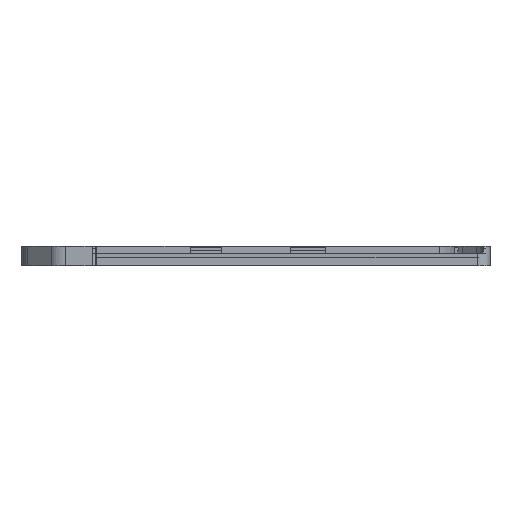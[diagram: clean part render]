
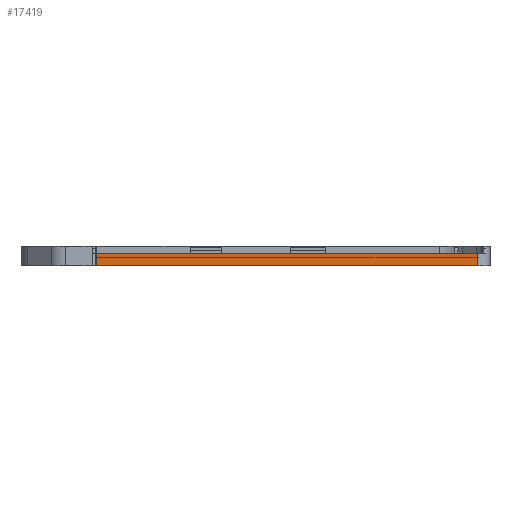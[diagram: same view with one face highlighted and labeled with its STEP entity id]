
A CAD part, left-side view. The second image highlights one B-rep face of the part: STEP entity #17419.
In plain terms, the highlighted planar face has unit normal (-1, 0, 0).
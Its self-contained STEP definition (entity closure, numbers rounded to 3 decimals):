
#3939=DIRECTION('',(0.,-1.,0.));
#3940=VECTOR('',#3939,94.7);
#3941=CARTESIAN_POINT('',(-131.2,40.,-41.5));
#3942=LINE('',#3941,#3940);
#6830=DIRECTION('',(0.,1.,0.));
#6831=VECTOR('',#6830,94.5);
#6832=CARTESIAN_POINT('',(-131.2,-54.5,-38.583));
#6833=LINE('',#6832,#6831);
#6838=DIRECTION('',(0.,0.,1.));
#6839=VECTOR('',#6838,2.926);
#6840=CARTESIAN_POINT('',(-131.2,-54.7,-41.5));
#6841=LINE('',#6840,#6839);
#6842=DIRECTION('',(0.,0.,1.));
#6843=VECTOR('',#6842,2.917);
#6844=CARTESIAN_POINT('',(-131.2,40.,-41.5));
#6845=LINE('',#6844,#6843);
#6846=CARTESIAN_POINT('',(-131.2,-54.7,-38.574));
#6852=CARTESIAN_POINT('',(-131.2,-54.5,-38.583));
#6853=CARTESIAN_POINT('',(-131.2,-54.533,-38.583));
#6854=CARTESIAN_POINT('',(-131.2,-54.6,-38.581));
#6855=CARTESIAN_POINT('',(-131.2,-54.666,-38.577));
#6856=CARTESIAN_POINT('',(-131.2,-54.7,-38.574));
#8843=CARTESIAN_POINT('',(-131.2,-54.5,-38.583));
#8844=VERTEX_POINT('',#8843);
#8845=CARTESIAN_POINT('',(-131.2,40.,-41.5));
#8846=CARTESIAN_POINT('',(-131.2,40.,-38.583));
#8847=VERTEX_POINT('',#8845);
#8848=VERTEX_POINT('',#8846);
#8855=VERTEX_POINT('',#6846);
#8863=CARTESIAN_POINT('',(-131.2,-54.7,-41.5));
#8864=VERTEX_POINT('',#8863);
#17405=CARTESIAN_POINT('',(-131.2,-60.848,-36.7));
#17406=DIRECTION('',(1.,0.,0.));
#17407=DIRECTION('',(0.,1.,0.));
#17408=AXIS2_PLACEMENT_3D('',#17405,#17406,#17407);
#17409=PLANE('',#17408);
#17411=ORIENTED_EDGE('',*,*,#17410,.F.);
#17412=ORIENTED_EDGE('',*,*,#10963,.F.);
#17413=ORIENTED_EDGE('',*,*,#17036,.T.);
#17414=ORIENTED_EDGE('',*,*,#17396,.F.);
#17416=ORIENTED_EDGE('',*,*,#17415,.T.);
#17417=EDGE_LOOP('',(#17411,#17412,#17413,#17414,#17416));
#17418=FACE_OUTER_BOUND('',#17417,.F.);
#6857=B_SPLINE_CURVE_WITH_KNOTS('',3,(#6852,#6853,#6854,#6855,#6856),
.UNSPECIFIED.,.F.,.F.,(4,1,4),(0.,0.5,1.),.UNSPECIFIED.);
#10963=EDGE_CURVE('',#8847,#8864,#3942,.T.);
#17036=EDGE_CURVE('',#8847,#8848,#6845,.T.);
#17396=EDGE_CURVE('',#8844,#8848,#6833,.T.);
#17410=EDGE_CURVE('',#8864,#8855,#6841,.T.);
#17415=EDGE_CURVE('',#8844,#8855,#6857,.T.);
#17419=ADVANCED_FACE('',(#17418),#17409,.F.);
